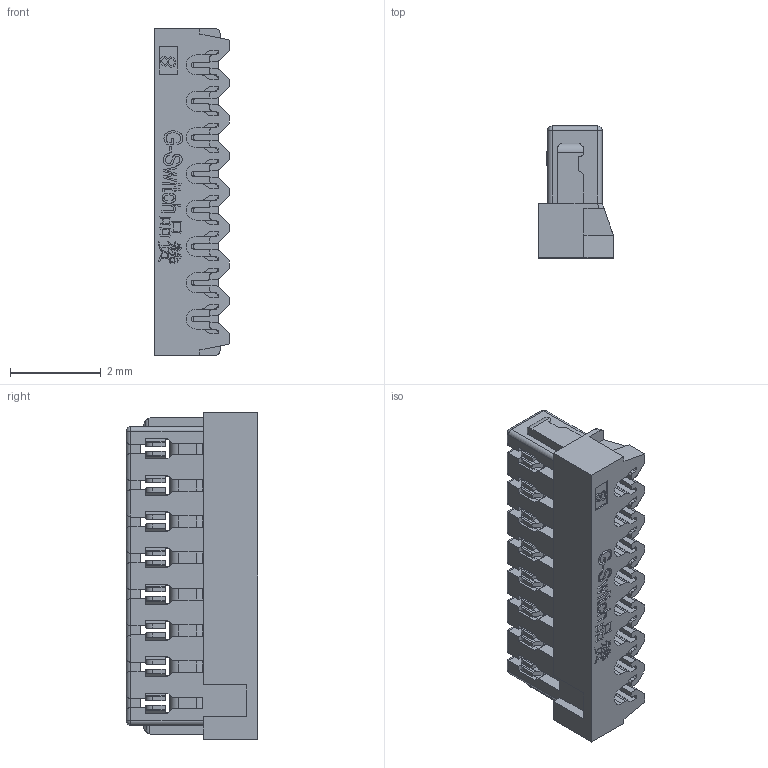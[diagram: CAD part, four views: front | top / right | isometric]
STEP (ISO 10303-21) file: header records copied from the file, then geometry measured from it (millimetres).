
FILE_DESCRIPTION (( 'STEP AP203' ), '1' );
FILE_NAME ('GT-D0801HM2-108S01.STEP', '2024-09-14T03:14:41', ( '' ), ( '' ), 'SwSTEP 2.0', 'SolidWorks 2020', '' );
FILE_SCHEMA (( 'CONFIG_CONTROL_DESIGN' ));
Length unit declared in the file: millimetre
Products named in the file (1): GT-D0801HM2-108S01
Bounding box: 1.65 x 2.9 x 7.2 mm (x, y, z)
Volume: 17.2 mm3; surface area: 172.9 mm2
Topology: 1 solids, 1 shells, 2107 faces, 6121 edges, 3896 vertices
Faces by surface type: plane 1348, cylinder 562, bspline 193, sphere 4
Entity records: 76500 total; most frequent: CARTESIAN_POINT 21640, ORIENTED_EDGE 12234, DIRECTION 10457, EDGE_CURVE 6117, LINE 4427, VECTOR 4427, VERTEX_POINT 3896, AXIS2_PLACEMENT_3D 3015
